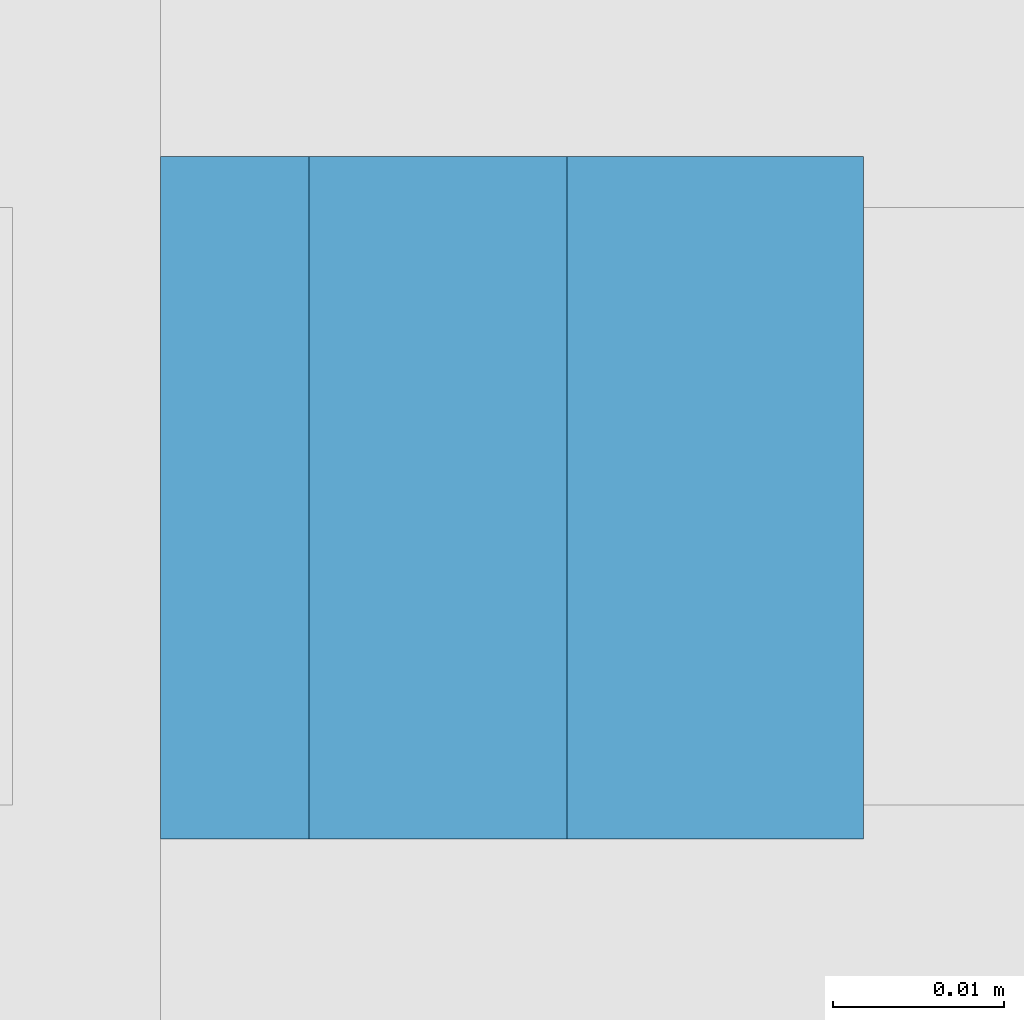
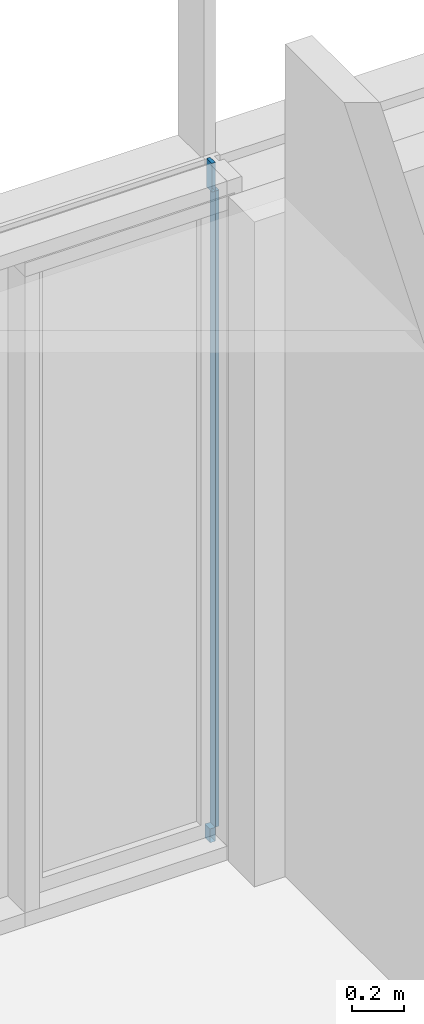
# One storey, part 177 of 240: 1 plate, 1 element without a shape of its own.
"""IFC2X3 building model written with IfcOpenShell, lengths in centimetres."""

from ifc_helpers import new_model, entity, si_unit, converted_unit, derived_unit, direction, frame, origin, place, context, subcontext, project, spatial, face_set, surface_model, source, transform, mapped, material, layer, layer_set, type_object, type_shapes, element, aggregate, save


model = new_model("IFC2X3")

# Units and contexts
model_context = context("Model", 3, precision=0.001, world=origin(), true_north=direction((6.12303176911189e-17, 1.0)))
body_context = subcontext(model_context, "Body", "Model", "MODEL_VIEW")
ifc_project = project(units=[si_unit("LENGTHUNIT", "METRE", prefix="CENTI"), si_unit("AREAUNIT", "SQUARE_METRE"), si_unit("VOLUMEUNIT", "CUBIC_METRE"), converted_unit("PLANEANGLEUNIT", "DEGREE", entity("IfcRatioMeasure", 0.0174532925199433), si_unit("PLANEANGLEUNIT", "RADIAN"), dimensions=[0, 0, 0, 0, 0, 0, 0]), si_unit("MASSUNIT", "GRAM", prefix="KILO"), derived_unit("MASSDENSITYUNIT", [(si_unit("MASSUNIT", "GRAM", prefix="KILO"), 1), (si_unit("LENGTHUNIT", "METRE"), -3)]), si_unit("TIMEUNIT", "SECOND"), si_unit("FREQUENCYUNIT", "HERTZ"), si_unit("THERMODYNAMICTEMPERATUREUNIT", "DEGREE_CELSIUS"), derived_unit("THERMALTRANSMITTANCEUNIT", [(si_unit("MASSUNIT", "GRAM", prefix="KILO"), 1), (si_unit("THERMODYNAMICTEMPERATUREUNIT", "KELVIN"), -1), (si_unit("TIMEUNIT", "SECOND"), -3)]), derived_unit("VOLUMETRICFLOWRATEUNIT", [(si_unit("LENGTHUNIT", "METRE"), 3), (si_unit("TIMEUNIT", "SECOND"), -1)]), si_unit("ELECTRICCURRENTUNIT", "AMPERE"), si_unit("ELECTRICVOLTAGEUNIT", "VOLT"), si_unit("POWERUNIT", "WATT"), si_unit("FORCEUNIT", "NEWTON", prefix="KILO"), si_unit("ILLUMINANCEUNIT", "LUX"), si_unit("LUMINOUSFLUXUNIT", "LUMEN"), si_unit("LUMINOUSINTENSITYUNIT", "CANDELA"), derived_unit("USERDEFINED", [(si_unit("MASSUNIT", "GRAM", prefix="KILO"), -1), (si_unit("LENGTHUNIT", "METRE"), -2), (si_unit("TIMEUNIT", "SECOND"), 3), (si_unit("LUMINOUSFLUXUNIT", "LUMEN"), 1)]), derived_unit("LINEARVELOCITYUNIT", [(si_unit("LENGTHUNIT", "METRE"), 1), (si_unit("TIMEUNIT", "SECOND"), -1)]), si_unit("PRESSUREUNIT", "PASCAL"), derived_unit("USERDEFINED", [(si_unit("LENGTHUNIT", "METRE"), -2), (si_unit("MASSUNIT", "GRAM", prefix="KILO"), 1), (si_unit("TIMEUNIT", "SECOND"), -2)])], contexts=[model_context])

# Site, building, storey
site_placement = place(None, frame((-2781.94577612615, 7442.24238424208, 0.0)))
site = spatial("IfcSite", under=ifc_project, at=site_placement, Name="Default", CompositionType="ELEMENT")
building_placement = place(site_placement, origin())
building = spatial("IfcBuilding", under=site, at=building_placement, CompositionType="ELEMENT")
storey_placement = place(building_placement, origin())
storey = spatial("IfcBuildingStorey", under=building, at=storey_placement, Name="N00 - COO", CompositionType="ELEMENT", Elevation=0.0)

# Curtain wall, plate
curtain_wall_type = type_object("IfcCurtainWallType", Name="Mur-rideau:07 - mur rideau trame 280 cm RDC maintenance", PredefinedType="NOTDEFINED")
curtain_wall_placement = place(building_placement, origin())
curtain_wall = element("IfcCurtainWall", 1, at=curtain_wall_placement, inside=storey, type_object=curtain_wall_type, Name="Mur-rideau:07 - mur rideau trame 280 cm RDC maintenance", ObjectType="Mur-rideau:07 - mur rideau trame 280 cm RDC maintenance")
ifc_material = material(Name="Verre")
ifc_layer = layer(ifc_material, 4.0)
ifc_layer_set = layer_set([ifc_layer], Name="Panneau système:Vitré")
plate_type = type_object("IfcPlateType", Name="Vitré", PredefinedType="CURTAIN_PANEL", material=ifc_layer_set)
shared_shape = source(origin(), body_context, "Body", "SurfaceModel", [
    surface_model("IfcFaceBasedSurfaceModel", [(-2.059374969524, -2.0, 0.0), (0.321874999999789, -2.0, 0.0), (0.321874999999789, -2.0, 319.61455664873), (-1.19062496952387, -2.0, 319.61455664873), (-1.19062500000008, -2.0, 306.0), (2.05937500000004, -2.0, 306.0), (2.05937500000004, -2.0, 6.49999999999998), (-2.05937500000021, -2.0, 6.5), (-2.059374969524, 2.0, 0.0), (-2.05937500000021, 2.0, 6.5), (2.05937500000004, 2.0, 6.49999999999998), (2.05937500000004, 2.0, 306.0), (-1.19062500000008, 2.0, 306.0), (-1.19062496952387, 2.0, 319.61455664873), (0.321874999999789, 2.0, 319.61455664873), (0.321874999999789, 2.0, 0.0)], [face_set([[[0, 1, 2, 3, 4, 5, 6, 7]], [[8, 9, 10, 11, 12, 13, 14, 15]], [[1, 0, 8, 15]], [[2, 1, 15, 14]], [[3, 2, 14, 13]], [[4, 3, 13, 12]], [[5, 11, 12, 4]], [[6, 10, 11, 5]], [[7, 6, 10, 9]], [[0, 7, 9, 8]]])]),
])
type_shapes(plate_type, [shared_shape])
plate_placement = place(curtain_wall_placement, frame((-9828.19050266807, 26.2000000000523, 0.0)))
plate = element("IfcPlate", 2, at=plate_placement, type_object=plate_type, Name="Panneau système:Vitré", ObjectType="Panneau système:Vitré", context=body_context, shape_type="MappedRepresentation", body=[
    mapped(shared_shape, transform((0.0, 0.0, 0.0), scale=1.0)),
])
aggregate(curtain_wall, [plate])

save(model, "model.ifc")
